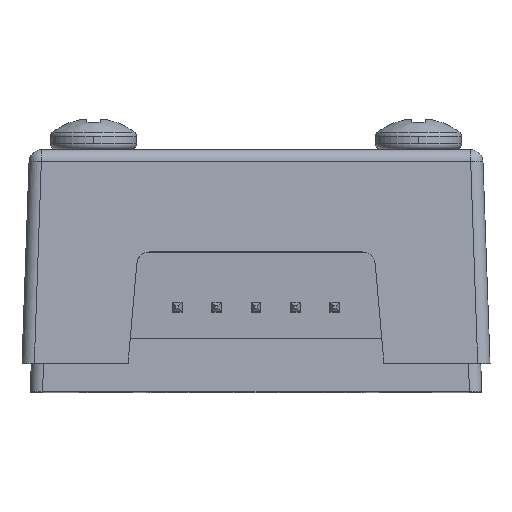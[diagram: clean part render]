
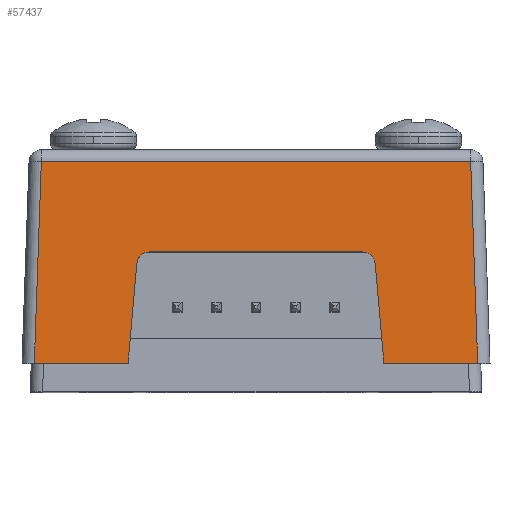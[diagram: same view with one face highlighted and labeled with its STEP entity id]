
A CAD part, top view. The second image highlights one B-rep face of the part: STEP entity #57437.
In plain terms, the highlighted planar face has unit normal (0, 0.035, 0.999).
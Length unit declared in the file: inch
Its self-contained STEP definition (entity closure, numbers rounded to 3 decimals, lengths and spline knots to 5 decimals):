
#97 = VERTEX_POINT ( 'NONE', #52429 ) ;
#297 = EDGE_CURVE ( 'NONE', #66769, #55663, #13204, .T. ) ;
#1131 = DIRECTION ( 'NONE',  ( -1., 0., 0. ) ) ;
#2133 = LINE ( 'NONE', #7888, #30788 ) ;
#5417 = CARTESIAN_POINT ( 'NONE',  ( 0.27136, 0.355, 0.81015 ) ) ;
#6428 = PLANE ( 'NONE',  #54006 ) ;
#6735 = CARTESIAN_POINT ( 'NONE',  ( 0.54388, 0.61391, 0.80111 ) ) ;
#6993 = ORIENTED_EDGE ( 'NONE', *, *, #64013, .F. ) ;
#7103 = CARTESIAN_POINT ( 'NONE',  ( 0.3025, 0.32647, 0.81115 ) ) ;
#7676 = LINE ( 'NONE', #40217, #17433 ) ;
#7791 = CARTESIAN_POINT ( 'NONE',  ( -0.32467, 0.073, 0.82 ) ) ;
#7888 = CARTESIAN_POINT ( 'NONE',  ( 0.594, 0.073, 0.82 ) ) ;
#9327 = CARTESIAN_POINT ( 'NONE',  ( -0.30101, 0.34347, 0.81055 ) ) ;
#9406 = VERTEX_POINT ( 'NONE', #52955 ) ;
#9801 = CARTESIAN_POINT ( 'NONE',  ( 0.3025, 0.32647, 0.81115 ) ) ;
#11008 = ORIENTED_EDGE ( 'NONE', *, *, #41890, .T. ) ;
#11492 = CARTESIAN_POINT ( 'NONE',  ( 0.594, 0.073, 0.82 ) ) ;
#12769 = VECTOR ( 'NONE', #61868, 39.37008 ) ;
#13204 =( BOUNDED_CURVE ( )  B_SPLINE_CURVE ( 3, ( #19508, #9327, #30066, #61177 ),
 .UNSPECIFIED., .F., .F. ) 
 B_SPLINE_CURVE_WITH_KNOTS ( ( 4, 4 ),
 ( 4.79966, 6.28319 ),
 .UNSPECIFIED. ) 
 CURVE ( )  GEOMETRIC_REPRESENTATION_ITEM ( )  RATIONAL_B_SPLINE_CURVE ( ( 1., 0.825, 0.825, 1. ) ) 
 REPRESENTATION_ITEM ( '' )  );
#13592 = VERTEX_POINT ( 'NONE', #7791 ) ;
#14765 = CARTESIAN_POINT ( 'NONE',  ( -0.3177, 0.15267, 0.81722 ) ) ;
#15917 = CARTESIAN_POINT ( 'NONE',  ( 0.28843, 0.355, 0.81015 ) ) ;
#16238 = DIRECTION ( 'NONE',  ( 0., 0.999, -0.035 ) ) ;
#17433 = VECTOR ( 'NONE', #23942, 39.37008 ) ;
#18459 = CARTESIAN_POINT ( 'NONE',  ( -0.3025, 0.32647, 0.81115 ) ) ;
#19508 = CARTESIAN_POINT ( 'NONE',  ( -0.3025, 0.32647, 0.81115 ) ) ;
#22615 = VECTOR ( 'NONE', #1131, 39.37008 ) ;
#22867 = DIRECTION ( 'NONE',  ( -1., 0., 0. ) ) ;
#23471 = ORIENTED_EDGE ( 'NONE', *, *, #24445, .T. ) ;
#23942 = DIRECTION ( 'NONE',  ( -1., 0., 0. ) ) ;
#24445 = EDGE_CURVE ( 'NONE', #64335, #97, #36643, .T. ) ;
#24514 = EDGE_LOOP ( 'NONE', ( #11008, #32506, #57296, #54479, #51935, #31745, #64747, #23471, #6993, #61971 ) ) ;
#25764 = FACE_OUTER_BOUND ( 'NONE', #24514, .T. ) ;
#25952 = VECTOR ( 'NONE', #52455, 39.37008 ) ;
#27323 =( BOUNDED_CURVE ( )  B_SPLINE_CURVE ( 3, ( #5417, #15917, #31596, #9801 ),
 .UNSPECIFIED., .F., .F. ) 
 B_SPLINE_CURVE_WITH_KNOTS ( ( 4, 4 ),
 ( 3.14159, 4.62512 ),
 .UNSPECIFIED. ) 
 CURVE ( )  GEOMETRIC_REPRESENTATION_ITEM ( )  RATIONAL_B_SPLINE_CURVE ( ( 1., 0.825, 0.825, 1. ) ) 
 REPRESENTATION_ITEM ( '' )  );
#27631 = LINE ( 'NONE', #48291, #61290 ) ;
#27663 = EDGE_CURVE ( 'NONE', #9406, #66930, #53119, .T. ) ;
#27939 = DIRECTION ( 'NONE',  ( -1., 0., 0. ) ) ;
#28059 = EDGE_CURVE ( 'NONE', #13592, #51812, #2133, .T. ) ;
#29934 = VECTOR ( 'NONE', #45772, 39.37008 ) ;
#30066 = CARTESIAN_POINT ( 'NONE',  ( -0.28843, 0.355, 0.81015 ) ) ;
#30537 = LINE ( 'NONE', #46079, #62293 ) ;
#30551 = CARTESIAN_POINT ( 'NONE',  ( 0.32672, 0.04964, 0.82082 ) ) ;
#30788 = VECTOR ( 'NONE', #27939, 39.37008 ) ;
#31277 = EDGE_CURVE ( 'NONE', #66769, #13592, #52024, .T. ) ;
#31569 = DIRECTION ( 'NONE',  ( -0.035, -0.999, 0.035 ) ) ;
#31596 = CARTESIAN_POINT ( 'NONE',  ( 0.30101, 0.34347, 0.81055 ) ) ;
#31653 = EDGE_CURVE ( 'NONE', #55588, #55663, #38112, .T. ) ;
#31722 = CARTESIAN_POINT ( 'NONE',  ( 0.594, 0.355, 0.81015 ) ) ;
#31745 = ORIENTED_EDGE ( 'NONE', *, *, #31653, .F. ) ;
#32506 = ORIENTED_EDGE ( 'NONE', *, *, #44953, .T. ) ;
#32702 = EDGE_CURVE ( 'NONE', #55588, #64335, #27323, .T. ) ;
#36643 = LINE ( 'NONE', #30551, #29934 ) ;
#38112 = LINE ( 'NONE', #31722, #22615 ) ;
#40217 = CARTESIAN_POINT ( 'NONE',  ( -0.57507, 0.58484, 0.80213 ) ) ;
#41275 = CARTESIAN_POINT ( 'NONE',  ( -0.5449, 0.58484, 0.80213 ) ) ;
#41890 = EDGE_CURVE ( 'NONE', #66930, #51447, #7676, .T. ) ;
#42555 = CARTESIAN_POINT ( 'NONE',  ( -0.56277, 0.073, 0.82 ) ) ;
#44953 = EDGE_CURVE ( 'NONE', #51447, #51812, #30537, .T. ) ;
#45772 = DIRECTION ( 'NONE',  ( 0.087, -0.996, 0.035 ) ) ;
#46079 = CARTESIAN_POINT ( 'NONE',  ( -0.56281, 0.07191, 0.82004 ) ) ;
#48291 = CARTESIAN_POINT ( 'NONE',  ( 0.594, 0.073, 0.82 ) ) ;
#51447 = VERTEX_POINT ( 'NONE', #41275 ) ;
#51812 = VERTEX_POINT ( 'NONE', #42555 ) ;
#51935 = ORIENTED_EDGE ( 'NONE', *, *, #297, .T. ) ;
#52024 = LINE ( 'NONE', #14765, #12769 ) ;
#52429 = CARTESIAN_POINT ( 'NONE',  ( 0.32467, 0.073, 0.82 ) ) ;
#52455 = DIRECTION ( 'NONE',  ( -0.035, 0.999, -0.035 ) ) ;
#52955 = CARTESIAN_POINT ( 'NONE',  ( 0.56277, 0.073, 0.82 ) ) ;
#53119 = LINE ( 'NONE', #6735, #25952 ) ;
#54006 = AXIS2_PLACEMENT_3D ( 'NONE', #11492, #62688, #16238 ) ;
#54479 = ORIENTED_EDGE ( 'NONE', *, *, #31277, .F. ) ;
#55588 = VERTEX_POINT ( 'NONE', #59631 ) ;
#55663 = VERTEX_POINT ( 'NONE', #56804 ) ;
#56804 = CARTESIAN_POINT ( 'NONE',  ( -0.27136, 0.355, 0.81015 ) ) ;
#57296 = ORIENTED_EDGE ( 'NONE', *, *, #28059, .F. ) ;
#57437 = ADVANCED_FACE ( 'NONE', ( #25764 ), #6428, .T. ) ;
#59631 = CARTESIAN_POINT ( 'NONE',  ( 0.27136, 0.355, 0.81015 ) ) ;
#61177 = CARTESIAN_POINT ( 'NONE',  ( -0.27136, 0.355, 0.81015 ) ) ;
#61290 = VECTOR ( 'NONE', #22867, 39.37008 ) ;
#61498 = CARTESIAN_POINT ( 'NONE',  ( 0.5449, 0.58484, 0.80213 ) ) ;
#61868 = DIRECTION ( 'NONE',  ( -0.087, -0.996, 0.035 ) ) ;
#61971 = ORIENTED_EDGE ( 'NONE', *, *, #27663, .T. ) ;
#62293 = VECTOR ( 'NONE', #31569, 39.37008 ) ;
#62688 = DIRECTION ( 'NONE',  ( 0., 0.035, 0.999 ) ) ;
#64013 = EDGE_CURVE ( 'NONE', #9406, #97, #27631, .T. ) ;
#64335 = VERTEX_POINT ( 'NONE', #7103 ) ;
#64747 = ORIENTED_EDGE ( 'NONE', *, *, #32702, .T. ) ;
#66769 = VERTEX_POINT ( 'NONE', #18459 ) ;
#66930 = VERTEX_POINT ( 'NONE', #61498 ) ;
